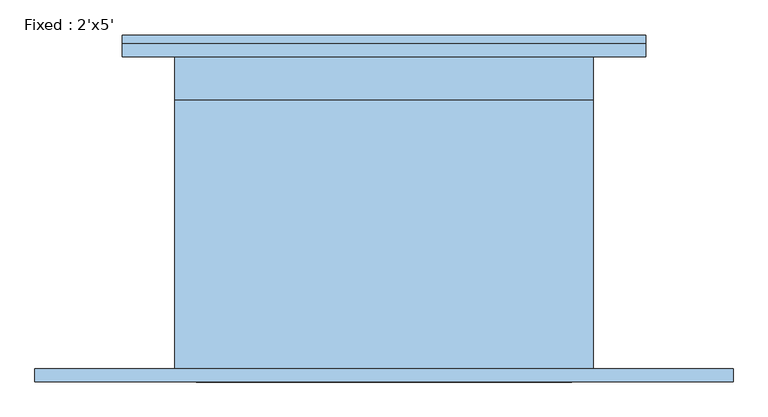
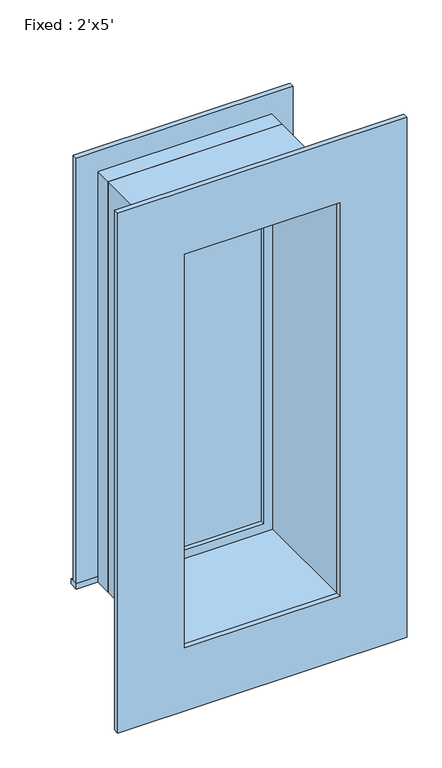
"""IFC4 building model written with IfcOpenShell, lengths in millimetres: window geometry, Fixed : 2'x5'."""

from ifc_helpers import new_model, si_unit, frame, origin, place, context, project, spatial, polyline, outline, extrude, source, transform, mapped, element, save


def fixed_2_x5_0ba76afd(model_context):
    return source(origin(), model_context, "Body", "SweptSolid", [
        extrude(outline(polyline([(-419.1, 258.7625), (342.9, 258.7625), (342.9, 227.0125), (-419.1, 227.0125), (-419.1, 258.7625)])), frame((0.0, 0.0, 914.4), z_axis=(0.0, 0.0, 1.0), x_axis=(1.0, 0.0, 0.0)), (0.0, 0.0, 1.0), 19.05),
        extrude(outline(polyline([(2419.35, -323.85), (2419.35, 247.65), (933.45, 247.65), (933.45, 342.9), (2514.6, 342.9), (2514.6, -419.1), (933.45, -419.1), (933.45, -323.85), (2419.35, -323.85)])), frame((0.0, 227.0125, 0.0), z_axis=(0.0, 1.0, 0.0), x_axis=(0.0, 0.0, 1.0)), (0.0, 0.0, 1.0), 19.05),
        extrude(outline(polyline([(2641.6, 469.9), (2641.6, -546.1), (711.2, -546.1), (711.2, 469.9), (2641.6, 469.9)]), holes=[polyline([(2406.65, 234.95), (946.15, 234.95), (946.15, -311.15), (2406.65, -311.15), (2406.65, 234.95)])]), frame((0.0, -246.0625, 0.0), z_axis=(0.0, 1.0, 0.0), x_axis=(0.0, 0.0, 1.0)), (0.0, 0.0, 1.0), 19.05),
        extrude(outline(polyline([(203.2, 179.3875), (-279.4, 179.3875), (-279.4, 192.0875), (203.2, 192.0875), (203.2, 179.3875)])), frame((0.0, 0.0, 977.9), z_axis=(0.0, 0.0, 1.0), x_axis=(1.0, 0.0, 0.0)), (0.0, 0.0, 1.0), 1397.0),
        extrude(outline(polyline([(2419.35, -323.85), (933.45, -323.85), (933.45, 247.65), (2419.35, 247.65), (2419.35, -323.85)]), holes=[polyline([(2374.9, -279.4), (2374.9, 203.2), (977.9, 203.2), (977.9, -279.4), (2374.9, -279.4)])]), frame((0.0, 163.5125, 0.0), z_axis=(0.0, 1.0, 0.0), x_axis=(0.0, 0.0, 1.0)), (0.0, 0.0, 1.0), 44.45),
        extrude(outline(polyline([(2438.4, -342.9), (914.4, -342.9), (914.4, 266.7), (2438.4, 266.7), (2438.4, -342.9)]), holes=[polyline([(2406.65, -311.15), (2406.65, 234.95), (946.15, 234.95), (946.15, -311.15), (2406.65, -311.15)])]), frame((0.0, -227.0125, 0.0), z_axis=(0.0, 1.0, 0.0), x_axis=(0.0, 0.0, 1.0)), (0.0, 0.0, 1.0), 390.525),
        extrude(outline(polyline([(2438.4, 266.7), (2438.4, -342.9), (914.4, -342.9), (914.4, 266.7), (2438.4, 266.7)]), holes=[polyline([(2419.35, 247.65), (933.45, 247.65), (933.45, -323.85), (2419.35, -323.85), (2419.35, 247.65)])]), frame((0.0, 163.5125, 0.0), z_axis=(0.0, 1.0, 0.0), x_axis=(0.0, 0.0, 1.0)), (0.0, 0.0, 1.0), 63.5),
    ])


if __name__ == "__main__":
    model = new_model("IFC4")
    model_context = context("Model", 3, world=origin())
    ifc_project = project(units=[si_unit("LENGTHUNIT", "METRE", prefix="MILLI")], contexts=[model_context])
    site = spatial("IfcSite", under=ifc_project)
    building = spatial("IfcBuilding", under=site)
    placement = place(None, origin())
    fixed_2_x5_shape = fixed_2_x5_0ba76afd(model_context)
    element("IfcWindow", 1, ObjectType="Fixed : 2'x5'", at=placement, inside=building, context=model_context, shape_type="MappedRepresentation", body=[
        mapped(fixed_2_x5_shape, transform((0.0, 0.0, 0.0), x_axis=(1.0, 0.0, 0.0), y_axis=(0.0, 1.0, 0.0), z_axis=(0.0, 0.0, 1.0))),
    ])
    save(model, "model.ifc")
